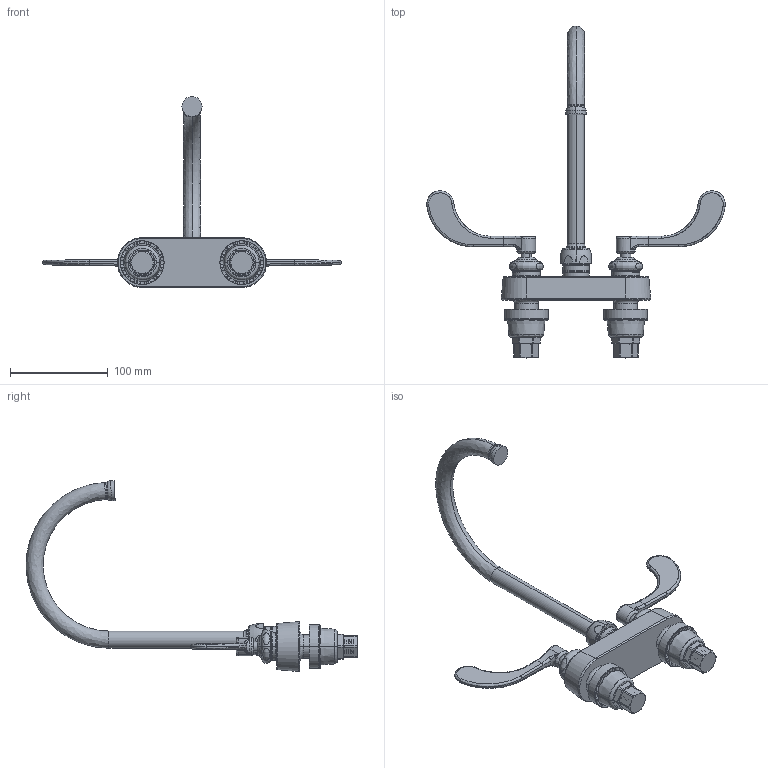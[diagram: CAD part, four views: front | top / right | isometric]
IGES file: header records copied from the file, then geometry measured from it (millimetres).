
Start section:  PTC IGES file: 895-gn6fc-317abcp_REV031324.igs
Global section: file name: 895-gn6fc-317abcp_REV031324.igs; native system: Creo Parametric by PTC Inc.; preprocessor: 2021184; author: rodjo; organization: Unknown; date: 20240313.105354; units: inch
Bounding box: 304.8 x 338.86 x 195.06 mm (x, y, z)
Surface area: 105935.6 mm2 (no closed solid volume)
Topology: 0 solids, 0 shells, 626 faces, 4994 edges, 6679 vertices
Faces by surface type: revolution 457, bspline 169
